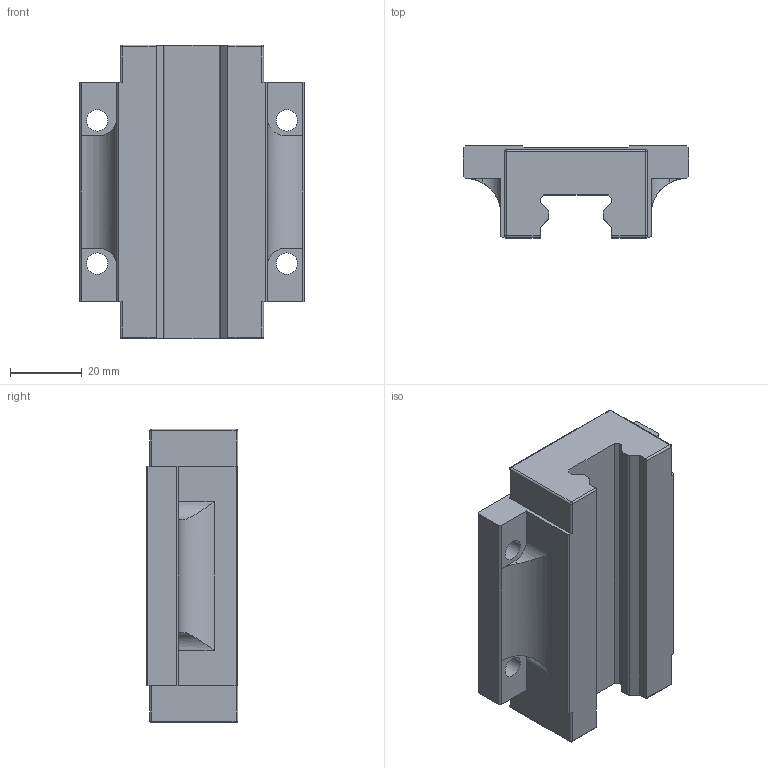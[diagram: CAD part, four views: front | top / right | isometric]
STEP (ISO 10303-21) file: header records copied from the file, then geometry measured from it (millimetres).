
FILE_DESCRIPTION (( 'STEP AP203' ), '1' );
FILE_NAME ('L1016.F20-L-BC.step', '2019-06-13T14:21:43', ( '' ), ( '' ), 'SwSTEP 2.0', 'SolidWorks 2017', '' );
FILE_SCHEMA (( 'CONFIG_CONTROL_DESIGN' ));
Length unit declared in the file: millimetre
Products named in the file (1): L1016.F20-L-BC
Bounding box: 63 x 25.6 x 82.1 mm (x, y, z)
Volume: 79780.5 mm3; surface area: 17838.9 mm2
Topology: 1 solids, 1 shells, 92 faces, 250 edges, 152 vertices
Faces by surface type: plane 48, cylinder 36, sphere 8
Entity records: 2967 total; most frequent: CARTESIAN_POINT 559, DIRECTION 492, ORIENTED_EDGE 484, EDGE_CURVE 242, VECTOR 170, LINE 170, AXIS2_PLACEMENT_3D 161, VERTEX_POINT 152
